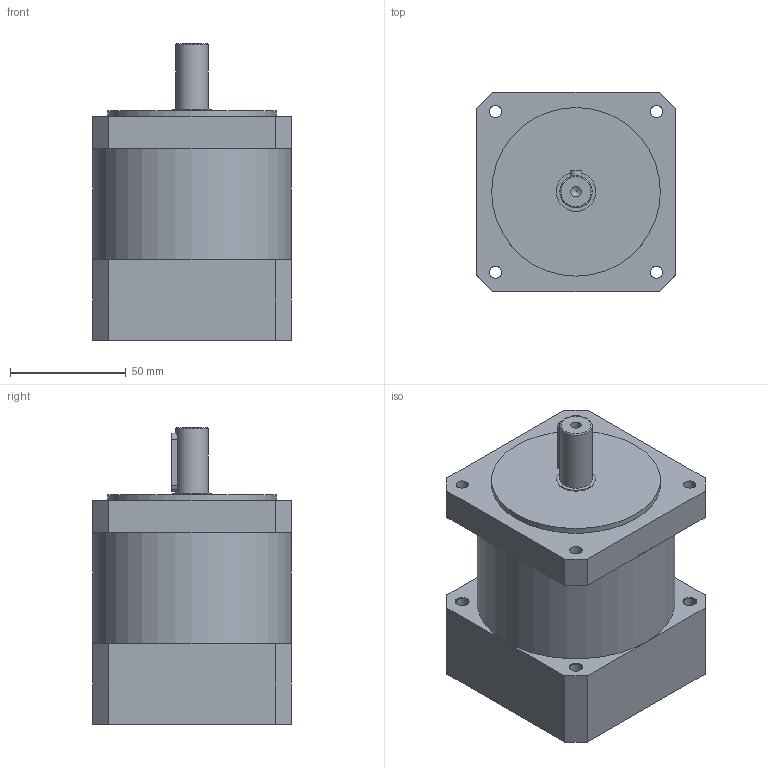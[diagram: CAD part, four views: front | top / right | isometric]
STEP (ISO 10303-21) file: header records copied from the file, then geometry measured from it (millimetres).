
FILE_DESCRIPTION(/* description */ (''),/* implementation_level */ '2;1');
FILE_NAME(/* name */ 'T86PG 2ji jiansu L 97.stp',/* time_stamp */ '2018-08-30T15:55:37+08:00',/* author */ (''),/* organization */ (''),/* preprocessor_version */ 'ST-DEVELOPER v11',/* originating_system */ 'SIEMENS UGS NX 6.0',/* authorisation */ '');
FILE_SCHEMA (('CONFIG_CONTROL_DESIGN'));
Length unit declared in the file: millimetre
Products named in the file (1): T86PG 2ji jiansu L 97
Bounding box: 86 x 86 x 128.5 mm (x, y, z)
Volume: 620890 mm3; surface area: 55102.9 mm2
Topology: 2 solids, 2 shells, 64 faces, 149 edges, 95 vertices
Faces by surface type: plane 36, cylinder 18, cone 9, torus 1
Full cylindrical faces by diameter (mm): 4.5 x1, 5.3 x8, 10 x1, 12.7 x1, 14 x1, 17 x1, 73 x2, 86 x1
Entity records: 1738 total; most frequent: DIRECTION 296, CARTESIAN_POINT 268, ORIENTED_EDGE 230, AXIS2_PLACEMENT_3D 116, EDGE_CURVE 115, EDGE_LOOP 112, FACE_BOUND 90, VERTEX_POINT 88
